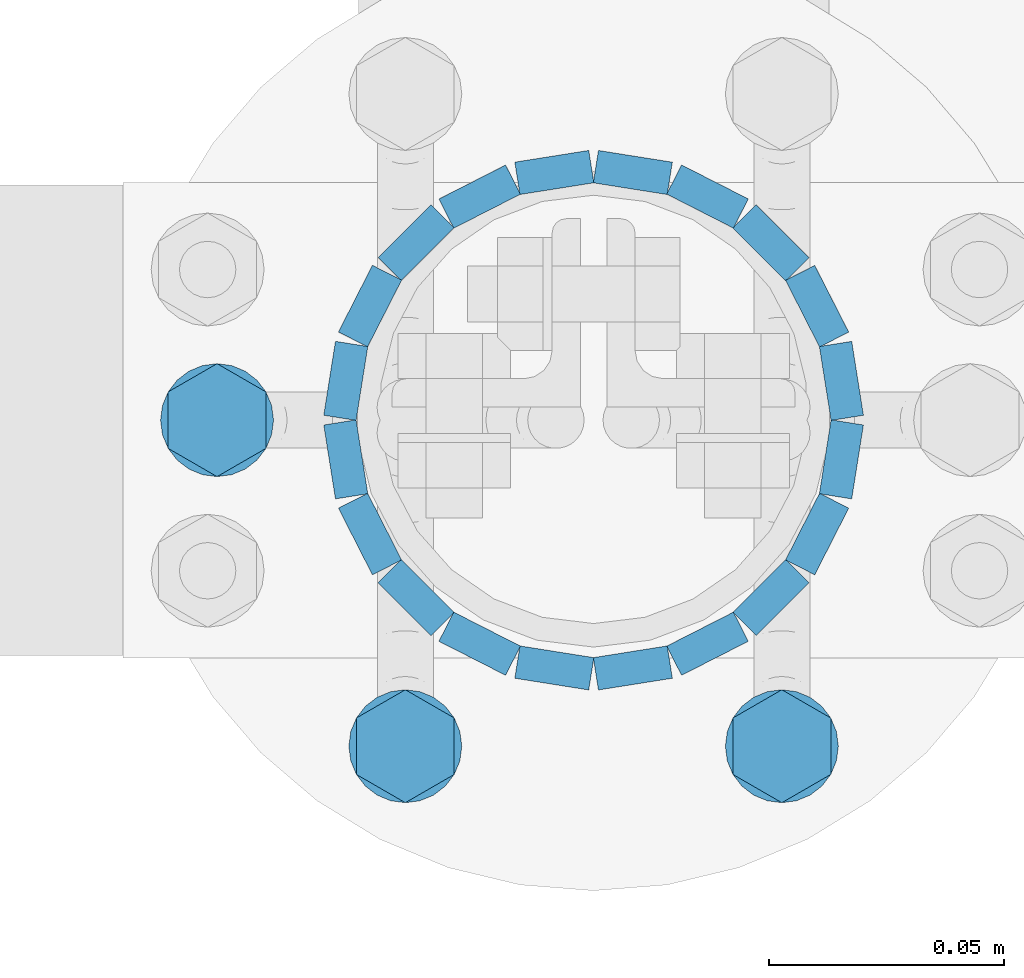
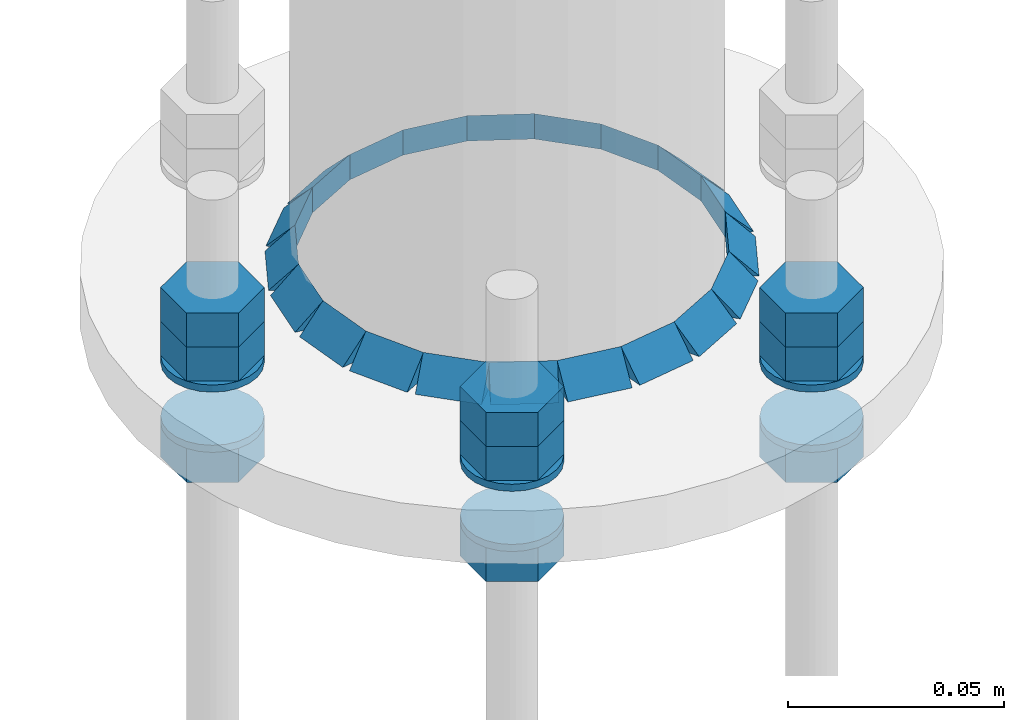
# One storey, part 40 of 84: 40 fasteners, 15 mechanical fasteners.
"""IFC4 building model written with IfcOpenShell, lengths in metres."""

import ifcopenshell
import ifcopenshell.guid

model = None  # the IFC model being written
_history = None  # IfcOwnerHistory: only IFC2X3 demands one
_inside = {}  # id of a spatial element -> (the spatial element, [elements in it])
_under = {}  # id of a project, library or spatial element -> (it, [spatial elements below it])
_declared = {}  # id of a project -> (the project, [libraries it declares])
_typed = {}  # id of a type object -> (the type object, [elements of that type])
_made_of = {}  # id of a material, layer set ... -> (it, [elements and type objects made of it])


def new_model(schema):
    """Start an empty IFC model of exactly this schema.

    Asked for "IFC4X3", IfcOpenShell would pick the latest addendum, in which some entities
    have other attributes; the version numbers below select the first issue.
    IFC2X3 requires an IfcOwnerHistory on every rooted entity: one is made here for all.
    """
    global model, _history
    if schema == "IFC4X3":
        model = ifcopenshell.file(schema_version=(4, 3, 0, 0))
    else:
        model = ifcopenshell.file(schema=schema)
    _inside.clear()
    _under.clear()
    _declared.clear()
    _typed.clear()
    _made_of.clear()
    _history = None
    if model.schema == "IFC2X3":
        org = make("IfcOrganization", Name="unknown")
        user = make(
            "IfcPersonAndOrganization",
            ThePerson=make("IfcPerson", FamilyName="unknown"),
            TheOrganization=org,
        )
        app = make(
            "IfcApplication",
            ApplicationDeveloper=org,
            Version="unknown",
            ApplicationFullName="unknown",
            ApplicationIdentifier="unknown",
        )
        _history = make(
            "IfcOwnerHistory",
            OwningUser=user,
            OwningApplication=app,
            ChangeAction="ADDED",
            CreationDate=0,
        )
    return model


def make(cls, **values):
    """One entity of the class cls with the attributes given. An attribute that is None is left unset."""
    return model.create_entity(
        cls, **{name: value for name, value in values.items() if value is not None}
    )


def rooted(cls, **values):
    """An entity with a GlobalId (a new one), such as an element, a storey or a relation."""
    return make(cls, GlobalId=ifcopenshell.guid.new(), OwnerHistory=_history, **values)


def si_unit(unit_type, name, prefix=None):
    """IfcSIUnit, for example si_unit("LENGTHUNIT", "METRE", prefix="MILLI")."""
    return make("IfcSIUnit", UnitType=unit_type, Prefix=prefix, Name=name)


def assignment(units):
    """IfcUnitAssignment: the units of a project."""
    return None if units is None else make("IfcUnitAssignment", Units=units)


def point(xyz):
    """IfcCartesianPoint."""
    return None if xyz is None else make("IfcCartesianPoint", Coordinates=xyz)


def direction(xyz):
    """IfcDirection."""
    return None if xyz is None else make("IfcDirection", DirectionRatios=xyz)


def frame(location, z_axis=None, x_axis=None):
    """IfcAxis2Placement3D, a coordinate frame: its origin and axes. An axis left out is left unset."""
    return make(
        "IfcAxis2Placement3D",
        Location=point(location),
        Axis=direction(z_axis),
        RefDirection=direction(x_axis),
    )


def origin_with_axes():
    """The frame at (0, 0, 0) with the z axis (0, 0, 1) and the x axis (1, 0, 0) written out."""
    return frame((0.0, 0.0, 0.0), z_axis=(0.0, 0.0, 1.0), x_axis=(1.0, 0.0, 0.0))


def place(relative_to, where):
    """IfcLocalPlacement: puts the frame where relative to a parent placement (None: the world)."""
    return make(
        "IfcLocalPlacement", PlacementRelTo=relative_to, RelativePlacement=where
    )


def context(
    kind, dimensions, precision=None, world=None, true_north=None, identifier=None
):
    """IfcGeometricRepresentationContext, for example the 3D "Model" context."""
    return make(
        "IfcGeometricRepresentationContext",
        ContextIdentifier=identifier,
        ContextType=kind,
        CoordinateSpaceDimension=dimensions,
        Precision=precision,
        WorldCoordinateSystem=world,
        TrueNorth=true_north,
    )


def project(units=None, contexts=None):
    """IfcProject with its units and contexts."""
    return rooted(
        "IfcProject",
        Name="project",
        RepresentationContexts=contexts,
        UnitsInContext=assignment(units),
    )


def spatial(cls, under=None, at=None, **own):
    """A site, building, storey or space (cls), placed at a placement, below another one or the project."""
    s = rooted(cls, ObjectPlacement=at, **own)
    if under is not None:
        _under.setdefault(under.id(), (under, []))[1].append(s)
    return s


def polyline(points):
    """IfcPolyline through the points."""
    return make("IfcPolyline", Points=[point(p) for p in points])


def outline(outer, holes=None, kind="AREA"):
    """IfcArbitraryClosedProfileDef: a profile drawn as a closed curve; with holes, ...WithVoids."""
    if holes is None:
        return make("IfcArbitraryClosedProfileDef", ProfileType=kind, OuterCurve=outer)
    return make(
        "IfcArbitraryProfileDefWithVoids",
        ProfileType=kind,
        OuterCurve=outer,
        InnerCurves=holes,
    )


def extrude(swept, where, along, depth):
    """IfcExtrudedAreaSolid: the profile swept, set in the frame where, extruded along a direction by depth."""
    return make(
        "IfcExtrudedAreaSolid",
        SweptArea=swept,
        Position=where,
        ExtrudedDirection=direction(along),
        Depth=depth,
    )


def shape(context_of_items, identifier, shape_type, items):
    """IfcShapeRepresentation: the items that make up one representation, for example the "Body"."""
    return make(
        "IfcShapeRepresentation",
        ContextOfItems=context_of_items,
        RepresentationIdentifier=identifier,
        RepresentationType=shape_type,
        Items=items,
    )


def made_of(thing, what):
    """Note that an element or type object is made of a material, layer set ...; save() writes the relation."""
    if what is not None:
        _made_of.setdefault(what.id(), (what, []))[1].append(thing)
    return thing


def type_object(cls, material=None, **own):
    """A type object (cls), such as IfcWallType, which elements share."""
    return made_of(rooted(cls, **own), material)


def element(
    cls,
    number,
    at=None,
    inside=None,
    cuts=None,
    type_object=None,
    material=None,
    context=None,
    identifier="Body",
    shape_type=None,
    held_by="IfcProductDefinitionShape",
    body=None,
    shapes=None,
    **own,
):
    """One element of the class cls, such as IfcWall. Its Tag is "e" and its number.

    at: its placement. inside: the storey or other place that contains it. cuts: it is an
    opening in that element (IfcRelVoidsElement). A single representation is given by context,
    identifier, shape_type and body (its items); several are given by shapes. held_by: the class
    of the entity that holds the representations. save() writes the other relations.
    """
    e = rooted(cls, Tag="e%d" % number, ObjectPlacement=at, **own)
    if body is not None:
        shapes = [shape(context, identifier, shape_type, body)]
    if shapes is not None:
        e.Representation = make(held_by, Representations=shapes)
    if inside is not None:
        _inside.setdefault(inside.id(), (inside, []))[1].append(e)
    if cuts is not None:
        rooted(
            "IfcRelVoidsElement", RelatingBuildingElement=cuts, RelatedOpeningElement=e
        )
    if type_object is not None:
        _typed.setdefault(type_object.id(), (type_object, []))[1].append(e)
    return made_of(e, material)


def aggregate(whole, parts):
    """IfcRelAggregates: a whole, such as a stair, and the parts it consists of."""
    return rooted("IfcRelAggregates", RelatingObject=whole, RelatedObjects=parts)


def save(model, path):
    """Write the relations noted so far, then the file.

    IfcRelAggregates (storeys below a building ...), IfcRelContainedInSpatialStructure (elements
    in a storey), IfcRelDefinesByType, IfcRelAssociatesMaterial and IfcRelDeclares: one each for
    every whole, place, type object, material and project.
    """
    for whole, parts in _under.values():
        aggregate(whole, parts)
    for where, things in _inside.values():
        rooted(
            "IfcRelContainedInSpatialStructure",
            RelatedElements=things,
            RelatingStructure=where,
        )
    for kind, things in _typed.values():
        rooted("IfcRelDefinesByType", RelatedObjects=things, RelatingType=kind)
    for what, things in _made_of.values():
        rooted("IfcRelAssociatesMaterial", RelatedObjects=things, RelatingMaterial=what)
    for by, libraries in _declared.values():
        rooted("IfcRelDeclares", RelatingContext=by, RelatedDefinitions=libraries)
    model.write(path)


model = new_model("IFC4")

# Units and contexts
model_context = context("Model", 3, precision=1e-05, world=origin_with_axes())
ifc_project = project(units=[si_unit("LENGTHUNIT", "METRE"), si_unit("AREAUNIT", "SQUARE_METRE"), si_unit("VOLUMEUNIT", "CUBIC_METRE"), si_unit("MASSUNIT", "GRAM", prefix="KILO"), si_unit("TIMEUNIT", "SECOND"), si_unit("PLANEANGLEUNIT", "RADIAN"), si_unit("SOLIDANGLEUNIT", "STERADIAN"), si_unit("THERMODYNAMICTEMPERATUREUNIT", "DEGREE_CELSIUS")], contexts=[model_context])

# Site, building, storey
placement_1 = place(None, origin_with_axes())
site = spatial("IfcSite", under=ifc_project, at=placement_1, Name="Italia", CompositionType="ELEMENT")
building = spatial("IfcBuilding", under=site, at=placement_1, Name="Tettoia", CompositionType="ELEMENT")
storey_placement = place(None, frame((0.0, 0.0, 4.199999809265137), z_axis=(0.0, 0.0, 1.0), x_axis=(1.0, 0.0, 0.0)))
storey = spatial("IfcBuildingStorey", under=building, at=storey_placement, Name="Storey 1", CompositionType="ELEMENT", Elevation=4.199999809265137)

# Fasteners
fastener_type_1 = type_object("IfcFastenerType", Name="Collegamento -007_0107", PredefinedType="WELD")
placement_2 = place(placement_1, origin_with_axes())
fastener_1_placement = place(placement_2, origin_with_axes())
element("IfcFastener", 1, at=fastener_1_placement, inside=storey, type_object=fastener_type_1, Name="Collegamento -007_0107", context=model_context, shape_type="SweptSolid", body=[
    extrude(outline(polyline([(0.0, 0.0), (0.00695801, 0.00717354), (0.00695801, 0.0), (0.0, 0.0)])), frame((0.116736, 10.0248, 4.01495), z_axis=(-0.98768013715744, 0.156486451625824, 0.0), x_axis=(-0.156486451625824, -0.98768013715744, 0.0)), (0.0, 0.0, 1.0), 0.0159),
])
fastener_type_2 = type_object("IfcFastenerType", Name="Collegamento -007_0107", PredefinedType="WELD")
fastener_2_placement = place(placement_2, origin_with_axes())
element("IfcFastener", 2, at=fastener_2_placement, inside=storey, type_object=fastener_type_2, Name="Collegamento -007_0107", context=model_context, shape_type="SweptSolid", body=[
    extrude(outline(polyline([(0.0, 0.0), (0.00695896, 0.00717354), (0.00695896, 0.0), (0.0, 0.0)])), frame((0.132864, 10.017, 4.01495), z_axis=(-0.8910071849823, 0.453989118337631, 0.0), x_axis=(-0.453989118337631, -0.8910071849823, 0.0)), (0.0, 0.0, 1.0), 0.0158999),
])
fastener_type_3 = type_object("IfcFastenerType", Name="Collegamento -007_0107", PredefinedType="WELD")
fastener_3_placement = place(placement_2, origin_with_axes())
element("IfcFastener", 3, at=fastener_3_placement, inside=storey, type_object=fastener_type_3, Name="Collegamento -007_0107", context=model_context, shape_type="SweptSolid", body=[
    extrude(outline(polyline([(0.0, 0.0), (0.00695848, 0.00717354), (0.00695848, 0.0), (0.0, 0.0)])), frame((0.145776, 10.0045, 4.01495), z_axis=(-0.70710813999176, 0.707105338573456, 0.0), x_axis=(-0.707105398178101, -0.707108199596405, 0.0)), (0.0, 0.0, 1.0), 0.0158998),
])
fastener_type_4 = type_object("IfcFastenerType", Name="Collegamento -007_0107", PredefinedType="WELD")
fastener_4_placement = place(placement_2, origin_with_axes())
element("IfcFastener", 4, at=fastener_4_placement, inside=storey, type_object=fastener_type_4, Name="Collegamento -007_0107", context=model_context, shape_type="SweptSolid", body=[
    extrude(outline(polyline([(0.0, 0.0), (0.00695848, 0.00717354), (0.00695848, 0.0), (0.0, 0.0)])), frame((0.154206, 9.9887, 4.01495), z_axis=(-0.453992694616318, 0.891005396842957, 0.0), x_axis=(-0.891005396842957, -0.453992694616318, 0.0)), (0.0, 0.0, 1.0), 0.0158998),
])
fastener_type_5 = type_object("IfcFastenerType", Name="Collegamento -007_0107", PredefinedType="WELD")
fastener_5_placement = place(placement_2, origin_with_axes())
element("IfcFastener", 5, at=fastener_5_placement, inside=storey, type_object=fastener_type_5, Name="Collegamento -007_0107", context=model_context, shape_type="SweptSolid", body=[
    extrude(outline(polyline([(0.0, 0.0), (0.00695813, 0.00717354), (0.00695813, 0.0), (0.0, 0.0)])), frame((0.157331, 9.97103, 4.01495), z_axis=(-0.156434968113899, 0.987688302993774, 0.0), x_axis=(-0.98768824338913, -0.156434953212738, 0.0)), (0.0, 0.0, 1.0), 0.0158999),
])
fastener_type_6 = type_object("IfcFastenerType", Name="Collegamento -007_0107", PredefinedType="WELD")
fastener_6_placement = place(placement_2, origin_with_axes())
element("IfcFastener", 6, at=fastener_6_placement, inside=storey, type_object=fastener_type_6, Name="Collegamento -007_0107", context=model_context, shape_type="SweptSolid", body=[
    extrude(outline(polyline([(0.0, 0.0), (0.00695813, 0.00717354), (0.00695813, 0.0), (0.0, 0.0)])), frame((0.154844, 9.95327, 4.01495), z_axis=(0.156434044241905, 0.987688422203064, 0.0), x_axis=(-0.987688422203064, 0.156434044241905, 0.0)), (0.0, 0.0, 1.0), 0.0158999),
])
fastener_type_7 = type_object("IfcFastenerType", Name="Collegamento -007_0107", PredefinedType="WELD")
fastener_7_placement = place(placement_2, origin_with_axes())
element("IfcFastener", 7, at=fastener_7_placement, inside=storey, type_object=fastener_type_7, Name="Collegamento -007_0107", context=model_context, shape_type="SweptSolid", body=[
    extrude(outline(polyline([(0.0, 0.0), (0.00695848, 0.00717354), (0.00695848, 0.0), (0.0, 0.0)])), frame((0.146988, 9.93714, 4.01495), z_axis=(0.45399197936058, 0.89100581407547, 0.0), x_axis=(-0.891005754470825, 0.453991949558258, 0.0)), (0.0, 0.0, 1.0), 0.0158998),
])
fastener_type_8 = type_object("IfcFastenerType", Name="Collegamento -007_0107", PredefinedType="WELD")
fastener_8_placement = place(placement_2, origin_with_axes())
element("IfcFastener", 8, at=fastener_8_placement, inside=storey, type_object=fastener_type_8, Name="Collegamento -007_0107", context=model_context, shape_type="SweptSolid", body=[
    extrude(outline(polyline([(0.0, 0.0), (0.00695801, 0.00717354), (0.00695801, 0.0), (0.0, 0.0)])), frame((0.134533, 9.92422, 4.01495), z_axis=(0.707108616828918, 0.707104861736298, 0.0), x_axis=(-0.707104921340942, 0.707108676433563, 0.0)), (0.0, 0.0, 1.0), 0.0158999),
])
fastener_type_9 = type_object("IfcFastenerType", Name="Collegamento -007_0107", PredefinedType="WELD")
fastener_9_placement = place(placement_2, origin_with_axes())
element("IfcFastener", 9, at=fastener_9_placement, inside=storey, type_object=fastener_type_9, Name="Collegamento -007_0107", context=model_context, shape_type="SweptSolid", body=[
    extrude(outline(polyline([(0.0, 0.0), (0.00695801, 0.00717354), (0.00695801, 0.0), (0.0, 0.0)])), frame((0.118697, 9.91579, 4.01495), z_axis=(0.891007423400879, 0.453988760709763, 0.0), x_axis=(-0.453988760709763, 0.891007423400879, 0.0)), (0.0, 0.0, 1.0), 0.0158999),
])
fastener_type_10 = type_object("IfcFastenerType", Name="Collegamento -007_0107", PredefinedType="WELD")
fastener_10_placement = place(placement_2, origin_with_axes())
element("IfcFastener", 10, at=fastener_10_placement, inside=storey, type_object=fastener_type_10, Name="Collegamento -007_0107", context=model_context, shape_type="SweptSolid", body=[
    extrude(outline(polyline([(0.0, 0.0), (0.00695896, 0.00717354), (0.00695896, 0.0), (0.0, 0.0)])), frame((0.101031, 9.91267, 4.01495), z_axis=(0.987680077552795, 0.156486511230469, 0.0), x_axis=(-0.156486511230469, 0.987680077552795, 0.0)), (0.0, 0.0, 1.0), 0.0159),
])
fastener_type_11 = type_object("IfcFastenerType", Name="Collegamento -007_0107", PredefinedType="WELD")
fastener_11_placement = place(placement_2, origin_with_axes())
element("IfcFastener", 11, at=fastener_11_placement, inside=storey, type_object=fastener_type_11, Name="Collegamento -007_0107", context=model_context, shape_type="SweptSolid", body=[
    extrude(outline(polyline([(0.0, 0.0), (0.00695705, 0.00717354), (0.00695705, 0.0), (0.0, 0.0)])), frame((0.0832645, 9.91516, 4.01495), z_axis=(0.987680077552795, -0.156486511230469, 0.0), x_axis=(0.156486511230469, 0.987680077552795, 0.0)), (0.0, 0.0, 1.0), 0.0159),
])
fastener_type_12 = type_object("IfcFastenerType", Name="Collegamento -007_0107", PredefinedType="WELD")
fastener_12_placement = place(placement_2, origin_with_axes())
element("IfcFastener", 12, at=fastener_12_placement, inside=storey, type_object=fastener_type_12, Name="Collegamento -007_0107", context=model_context, shape_type="SweptSolid", body=[
    extrude(outline(polyline([(0.0, 0.0), (0.00695801, 0.00717354), (0.00695801, 0.0), (0.0, 0.0)])), frame((0.0671362, 9.92301, 4.01495), z_axis=(0.891007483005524, -0.453988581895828, 0.0), x_axis=(0.453988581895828, 0.891007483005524, 0.0)), (0.0, 0.0, 1.0), 0.0158999),
])
fastener_type_13 = type_object("IfcFastenerType", Name="Collegamento -007_0107", PredefinedType="WELD")
fastener_13_placement = place(placement_2, origin_with_axes())
element("IfcFastener", 13, at=fastener_13_placement, inside=storey, type_object=fastener_type_13, Name="Collegamento -007_0107", context=model_context, shape_type="SweptSolid", body=[
    extrude(outline(polyline([(0.0, 0.0), (0.00695801, 0.00717354), (0.00695801, 0.0), (0.0, 0.0)])), frame((0.0542245, 9.93547, 4.01495), z_axis=(0.707108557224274, -0.707105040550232, 0.0), x_axis=(0.707105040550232, 0.707108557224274, 0.0)), (0.0, 0.0, 1.0), 0.0158999),
])
fastener_type_14 = type_object("IfcFastenerType", Name="Collegamento -007_0107", PredefinedType="WELD")
fastener_14_placement = place(placement_2, origin_with_axes())
element("IfcFastener", 14, at=fastener_14_placement, inside=storey, type_object=fastener_type_14, Name="Collegamento -007_0107", context=model_context, shape_type="SweptSolid", body=[
    extrude(outline(polyline([(0.0, 0.0), (0.00695896, 0.00717354), (0.00695896, 0.0), (0.0, 0.0)])), frame((0.0457937, 9.9513, 4.01495), z_axis=(0.45399197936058, -0.89100581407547, 0.0), x_axis=(0.891005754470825, 0.453991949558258, 0.0)), (0.0, 0.0, 1.0), 0.0158998),
])
fastener_type_15 = type_object("IfcFastenerType", Name="Collegamento -007_0107", PredefinedType="WELD")
fastener_15_placement = place(placement_2, origin_with_axes())
element("IfcFastener", 15, at=fastener_15_placement, inside=storey, type_object=fastener_type_15, Name="Collegamento -007_0107", context=model_context, shape_type="SweptSolid", body=[
    extrude(outline(polyline([(0.0, 0.0), (0.00695813, 0.00717354), (0.00695813, 0.0), (0.0, 0.0)])), frame((0.0426691, 9.96897, 4.01495), z_axis=(0.156434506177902, -0.987688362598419, 0.0), x_axis=(0.987688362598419, 0.156434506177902, 0.0)), (0.0, 0.0, 1.0), 0.0158999),
])
fastener_type_16 = type_object("IfcFastenerType", Name="Collegamento -007_0107", PredefinedType="WELD")
fastener_16_placement = place(placement_2, origin_with_axes())
element("IfcFastener", 16, at=fastener_16_placement, inside=storey, type_object=fastener_type_16, Name="Collegamento -007_0107", context=model_context, shape_type="SweptSolid", body=[
    extrude(outline(polyline([(0.0, 0.0), (0.00695813, 0.00717354), (0.00695813, 0.0), (0.0, 0.0)])), frame((0.0451564, 9.98674, 4.01495), z_axis=(-0.156434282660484, -0.987688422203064, 0.0), x_axis=(0.987688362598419, -0.156434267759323, 0.0)), (0.0, 0.0, 1.0), 0.0158999),
])
fastener_type_17 = type_object("IfcFastenerType", Name="Collegamento -007_0107", PredefinedType="WELD")
fastener_17_placement = place(placement_2, origin_with_axes())
element("IfcFastener", 17, at=fastener_17_placement, inside=storey, type_object=fastener_type_17, Name="Collegamento -007_0107", context=model_context, shape_type="SweptSolid", body=[
    extrude(outline(polyline([(0.0, 0.0), (0.00695801, 0.00717354), (0.00695801, 0.0), (0.0, 0.0)])), frame((0.0530121, 10.0029, 4.01495), z_axis=(-0.453992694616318, -0.891005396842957, 0.0), x_axis=(0.891005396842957, -0.453992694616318, 0.0)), (0.0, 0.0, 1.0), 0.0158998),
])
fastener_type_18 = type_object("IfcFastenerType", Name="Collegamento -007_0107", PredefinedType="WELD")
fastener_18_placement = place(placement_2, origin_with_axes())
element("IfcFastener", 18, at=fastener_18_placement, inside=storey, type_object=fastener_type_18, Name="Collegamento -007_0107", context=model_context, shape_type="SweptSolid", body=[
    extrude(outline(polyline([(0.0, 0.0), (0.00695801, 0.00717354), (0.00695801, 0.0), (0.0, 0.0)])), frame((0.0654674, 10.0158, 4.01495), z_axis=(-0.707108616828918, -0.707104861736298, 0.0), x_axis=(0.707104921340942, -0.707108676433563, 0.0)), (0.0, 0.0, 1.0), 0.0158999),
])
fastener_type_19 = type_object("IfcFastenerType", Name="Collegamento -007_0107", PredefinedType="WELD")
fastener_19_placement = place(placement_2, origin_with_axes())
element("IfcFastener", 19, at=fastener_19_placement, inside=storey, type_object=fastener_type_19, Name="Collegamento -007_0107", context=model_context, shape_type="SweptSolid", body=[
    extrude(outline(polyline([(0.0, 0.0), (0.00695801, 0.00717354), (0.00695801, 0.0), (0.0, 0.0)])), frame((0.0813031, 10.0242, 4.01495), z_axis=(-0.891007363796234, -0.453988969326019, 0.0), x_axis=(0.453988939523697, -0.891007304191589, 0.0)), (0.0, 0.0, 1.0), 0.0158999),
])
fastener_type_20 = type_object("IfcFastenerType", Name="Collegamento -007_0107", PredefinedType="WELD")
fastener_20_placement = place(placement_2, origin_with_axes())
element("IfcFastener", 20, at=fastener_20_placement, inside=storey, type_object=fastener_type_20, Name="Collegamento -007_0107", context=model_context, shape_type="SweptSolid", body=[
    extrude(outline(polyline([(0.0, 0.0), (0.00695801, 0.00717354), (0.00695801, 0.0), (0.0, 0.0)])), frame((0.0989686, 10.0273, 4.01495), z_axis=(-0.98768013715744, -0.156486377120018, 0.0), x_axis=(0.156486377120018, -0.98768013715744, 0.0)), (0.0, 0.0, 1.0), 0.0159),
])
fastener_type_21 = type_object("IfcFastenerType", Name="Collegamento -007_0107", PredefinedType="WELD")
fastener_21_placement = place(placement_2, origin_with_axes())
element("IfcFastener", 21, at=fastener_21_placement, inside=storey, type_object=fastener_type_21, Name="Collegamento -007_0107", context=model_context, shape_type="SweptSolid", body=[
    extrude(outline(polyline([(0.0, 0.0), (0.00695801, 0.00717354), (0.00695801, 0.0), (0.0, 0.0)])), frame((0.116736, 10.0248, 4.01495), z_axis=(-0.98768013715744, 0.156486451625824, 0.0), x_axis=(-0.156486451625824, -0.98768013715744, 0.0)), (0.0, 0.0, 1.0), 0.0159),
])
fastener_type_22 = type_object("IfcFastenerType", Name="Collegamento -007_0107", PredefinedType="WELD")
fastener_22_placement = place(placement_2, origin_with_axes())
element("IfcFastener", 22, at=fastener_22_placement, inside=storey, type_object=fastener_type_22, Name="Collegamento -007_0107", context=model_context, shape_type="SweptSolid", body=[
    extrude(outline(polyline([(0.0, 0.0), (0.00695896, 0.00717354), (0.00695896, 0.0), (0.0, 0.0)])), frame((0.132864, 10.017, 4.01495), z_axis=(-0.8910071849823, 0.453989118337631, 0.0), x_axis=(-0.453989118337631, -0.8910071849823, 0.0)), (0.0, 0.0, 1.0), 0.0158999),
])
fastener_type_23 = type_object("IfcFastenerType", Name="Collegamento -007_0107", PredefinedType="WELD")
fastener_23_placement = place(placement_2, origin_with_axes())
element("IfcFastener", 23, at=fastener_23_placement, inside=storey, type_object=fastener_type_23, Name="Collegamento -007_0107", context=model_context, shape_type="SweptSolid", body=[
    extrude(outline(polyline([(0.0, 0.0), (0.00695848, 0.00717354), (0.00695848, 0.0), (0.0, 0.0)])), frame((0.145776, 10.0045, 4.01495), z_axis=(-0.70710813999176, 0.707105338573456, 0.0), x_axis=(-0.707105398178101, -0.707108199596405, 0.0)), (0.0, 0.0, 1.0), 0.0158998),
])
fastener_type_24 = type_object("IfcFastenerType", Name="Collegamento -007_0107", PredefinedType="WELD")
fastener_24_placement = place(placement_2, origin_with_axes())
element("IfcFastener", 24, at=fastener_24_placement, inside=storey, type_object=fastener_type_24, Name="Collegamento -007_0107", context=model_context, shape_type="SweptSolid", body=[
    extrude(outline(polyline([(0.0, 0.0), (0.00695848, 0.00717354), (0.00695848, 0.0), (0.0, 0.0)])), frame((0.154206, 9.9887, 4.01495), z_axis=(-0.453992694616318, 0.891005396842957, 0.0), x_axis=(-0.891005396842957, -0.453992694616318, 0.0)), (0.0, 0.0, 1.0), 0.0158998),
])
fastener_type_25 = type_object("IfcFastenerType", Name="Collegamento -007_0107", PredefinedType="WELD")
fastener_25_placement = place(placement_2, origin_with_axes())
element("IfcFastener", 25, at=fastener_25_placement, inside=storey, type_object=fastener_type_25, Name="Collegamento -007_0107", context=model_context, shape_type="SweptSolid", body=[
    extrude(outline(polyline([(0.0, 0.0), (0.00695813, 0.00717354), (0.00695813, 0.0), (0.0, 0.0)])), frame((0.157331, 9.97103, 4.01495), z_axis=(-0.156434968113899, 0.987688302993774, 0.0), x_axis=(-0.98768824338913, -0.156434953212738, 0.0)), (0.0, 0.0, 1.0), 0.0158999),
])
fastener_type_26 = type_object("IfcFastenerType", Name="Collegamento -007_0107", PredefinedType="WELD")
fastener_26_placement = place(placement_2, origin_with_axes())
element("IfcFastener", 26, at=fastener_26_placement, inside=storey, type_object=fastener_type_26, Name="Collegamento -007_0107", context=model_context, shape_type="SweptSolid", body=[
    extrude(outline(polyline([(0.0, 0.0), (0.00695813, 0.00717354), (0.00695813, 0.0), (0.0, 0.0)])), frame((0.154844, 9.95327, 4.01495), z_axis=(0.156434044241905, 0.987688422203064, 0.0), x_axis=(-0.987688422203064, 0.156434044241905, 0.0)), (0.0, 0.0, 1.0), 0.0158999),
])
fastener_type_27 = type_object("IfcFastenerType", Name="Collegamento -007_0107", PredefinedType="WELD")
fastener_27_placement = place(placement_2, origin_with_axes())
element("IfcFastener", 27, at=fastener_27_placement, inside=storey, type_object=fastener_type_27, Name="Collegamento -007_0107", context=model_context, shape_type="SweptSolid", body=[
    extrude(outline(polyline([(0.0, 0.0), (0.00695848, 0.00717354), (0.00695848, 0.0), (0.0, 0.0)])), frame((0.146988, 9.93714, 4.01495), z_axis=(0.45399197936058, 0.89100581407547, 0.0), x_axis=(-0.891005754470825, 0.453991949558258, 0.0)), (0.0, 0.0, 1.0), 0.0158998),
])
fastener_type_28 = type_object("IfcFastenerType", Name="Collegamento -007_0107", PredefinedType="WELD")
fastener_28_placement = place(placement_2, origin_with_axes())
element("IfcFastener", 28, at=fastener_28_placement, inside=storey, type_object=fastener_type_28, Name="Collegamento -007_0107", context=model_context, shape_type="SweptSolid", body=[
    extrude(outline(polyline([(0.0, 0.0), (0.00695801, 0.00717354), (0.00695801, 0.0), (0.0, 0.0)])), frame((0.134533, 9.92422, 4.01495), z_axis=(0.707108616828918, 0.707104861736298, 0.0), x_axis=(-0.707104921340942, 0.707108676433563, 0.0)), (0.0, 0.0, 1.0), 0.0158999),
])
fastener_type_29 = type_object("IfcFastenerType", Name="Collegamento -007_0107", PredefinedType="WELD")
fastener_29_placement = place(placement_2, origin_with_axes())
element("IfcFastener", 29, at=fastener_29_placement, inside=storey, type_object=fastener_type_29, Name="Collegamento -007_0107", context=model_context, shape_type="SweptSolid", body=[
    extrude(outline(polyline([(0.0, 0.0), (0.00695801, 0.00717354), (0.00695801, 0.0), (0.0, 0.0)])), frame((0.118697, 9.91579, 4.01495), z_axis=(0.891007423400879, 0.453988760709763, 0.0), x_axis=(-0.453988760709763, 0.891007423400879, 0.0)), (0.0, 0.0, 1.0), 0.0158999),
])
fastener_type_30 = type_object("IfcFastenerType", Name="Collegamento -007_0107", PredefinedType="WELD")
fastener_30_placement = place(placement_2, origin_with_axes())
element("IfcFastener", 30, at=fastener_30_placement, inside=storey, type_object=fastener_type_30, Name="Collegamento -007_0107", context=model_context, shape_type="SweptSolid", body=[
    extrude(outline(polyline([(0.0, 0.0), (0.00695896, 0.00717354), (0.00695896, 0.0), (0.0, 0.0)])), frame((0.101031, 9.91267, 4.01495), z_axis=(0.987680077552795, 0.156486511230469, 0.0), x_axis=(-0.156486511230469, 0.987680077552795, 0.0)), (0.0, 0.0, 1.0), 0.0159),
])
fastener_type_31 = type_object("IfcFastenerType", Name="Collegamento -007_0107", PredefinedType="WELD")
fastener_31_placement = place(placement_2, origin_with_axes())
element("IfcFastener", 31, at=fastener_31_placement, inside=storey, type_object=fastener_type_31, Name="Collegamento -007_0107", context=model_context, shape_type="SweptSolid", body=[
    extrude(outline(polyline([(0.0, 0.0), (0.00695705, 0.00717354), (0.00695705, 0.0), (0.0, 0.0)])), frame((0.0832645, 9.91516, 4.01495), z_axis=(0.987680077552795, -0.156486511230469, 0.0), x_axis=(0.156486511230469, 0.987680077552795, 0.0)), (0.0, 0.0, 1.0), 0.0159),
])
fastener_type_32 = type_object("IfcFastenerType", Name="Collegamento -007_0107", PredefinedType="WELD")
fastener_32_placement = place(placement_2, origin_with_axes())
element("IfcFastener", 32, at=fastener_32_placement, inside=storey, type_object=fastener_type_32, Name="Collegamento -007_0107", context=model_context, shape_type="SweptSolid", body=[
    extrude(outline(polyline([(0.0, 0.0), (0.00695801, 0.00717354), (0.00695801, 0.0), (0.0, 0.0)])), frame((0.0671362, 9.92301, 4.01495), z_axis=(0.891007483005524, -0.453988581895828, 0.0), x_axis=(0.453988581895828, 0.891007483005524, 0.0)), (0.0, 0.0, 1.0), 0.0158999),
])
fastener_type_33 = type_object("IfcFastenerType", Name="Collegamento -007_0107", PredefinedType="WELD")
fastener_33_placement = place(placement_2, origin_with_axes())
element("IfcFastener", 33, at=fastener_33_placement, inside=storey, type_object=fastener_type_33, Name="Collegamento -007_0107", context=model_context, shape_type="SweptSolid", body=[
    extrude(outline(polyline([(0.0, 0.0), (0.00695801, 0.00717354), (0.00695801, 0.0), (0.0, 0.0)])), frame((0.0542245, 9.93547, 4.01495), z_axis=(0.707108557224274, -0.707105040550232, 0.0), x_axis=(0.707105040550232, 0.707108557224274, 0.0)), (0.0, 0.0, 1.0), 0.0158999),
])
fastener_type_34 = type_object("IfcFastenerType", Name="Collegamento -007_0107", PredefinedType="WELD")
fastener_34_placement = place(placement_2, origin_with_axes())
element("IfcFastener", 34, at=fastener_34_placement, inside=storey, type_object=fastener_type_34, Name="Collegamento -007_0107", context=model_context, shape_type="SweptSolid", body=[
    extrude(outline(polyline([(0.0, 0.0), (0.00695896, 0.00717354), (0.00695896, 0.0), (0.0, 0.0)])), frame((0.0457937, 9.9513, 4.01495), z_axis=(0.45399197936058, -0.89100581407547, 0.0), x_axis=(0.891005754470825, 0.453991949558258, 0.0)), (0.0, 0.0, 1.0), 0.0158998),
])
fastener_type_35 = type_object("IfcFastenerType", Name="Collegamento -007_0107", PredefinedType="WELD")
fastener_35_placement = place(placement_2, origin_with_axes())
element("IfcFastener", 35, at=fastener_35_placement, inside=storey, type_object=fastener_type_35, Name="Collegamento -007_0107", context=model_context, shape_type="SweptSolid", body=[
    extrude(outline(polyline([(0.0, 0.0), (0.00695813, 0.00717354), (0.00695813, 0.0), (0.0, 0.0)])), frame((0.0426691, 9.96897, 4.01495), z_axis=(0.156434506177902, -0.987688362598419, 0.0), x_axis=(0.987688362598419, 0.156434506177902, 0.0)), (0.0, 0.0, 1.0), 0.0158999),
])
fastener_type_36 = type_object("IfcFastenerType", Name="Collegamento -007_0107", PredefinedType="WELD")
fastener_36_placement = place(placement_2, origin_with_axes())
element("IfcFastener", 36, at=fastener_36_placement, inside=storey, type_object=fastener_type_36, Name="Collegamento -007_0107", context=model_context, shape_type="SweptSolid", body=[
    extrude(outline(polyline([(0.0, 0.0), (0.00695813, 0.00717354), (0.00695813, 0.0), (0.0, 0.0)])), frame((0.0451564, 9.98674, 4.01495), z_axis=(-0.156434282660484, -0.987688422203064, 0.0), x_axis=(0.987688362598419, -0.156434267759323, 0.0)), (0.0, 0.0, 1.0), 0.0158999),
])
fastener_type_37 = type_object("IfcFastenerType", Name="Collegamento -007_0107", PredefinedType="WELD")
fastener_37_placement = place(placement_2, origin_with_axes())
element("IfcFastener", 37, at=fastener_37_placement, inside=storey, type_object=fastener_type_37, Name="Collegamento -007_0107", context=model_context, shape_type="SweptSolid", body=[
    extrude(outline(polyline([(0.0, 0.0), (0.00695801, 0.00717354), (0.00695801, 0.0), (0.0, 0.0)])), frame((0.0530121, 10.0029, 4.01495), z_axis=(-0.453992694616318, -0.891005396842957, 0.0), x_axis=(0.891005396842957, -0.453992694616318, 0.0)), (0.0, 0.0, 1.0), 0.0158998),
])
fastener_type_38 = type_object("IfcFastenerType", Name="Collegamento -007_0107", PredefinedType="WELD")
fastener_38_placement = place(placement_2, origin_with_axes())
element("IfcFastener", 38, at=fastener_38_placement, inside=storey, type_object=fastener_type_38, Name="Collegamento -007_0107", context=model_context, shape_type="SweptSolid", body=[
    extrude(outline(polyline([(0.0, 0.0), (0.00695801, 0.00717354), (0.00695801, 0.0), (0.0, 0.0)])), frame((0.0654674, 10.0158, 4.01495), z_axis=(-0.707108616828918, -0.707104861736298, 0.0), x_axis=(0.707104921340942, -0.707108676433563, 0.0)), (0.0, 0.0, 1.0), 0.0158999),
])
fastener_type_39 = type_object("IfcFastenerType", Name="Collegamento -007_0107", PredefinedType="WELD")
fastener_39_placement = place(placement_2, origin_with_axes())
element("IfcFastener", 39, at=fastener_39_placement, inside=storey, type_object=fastener_type_39, Name="Collegamento -007_0107", context=model_context, shape_type="SweptSolid", body=[
    extrude(outline(polyline([(0.0, 0.0), (0.00695801, 0.00717354), (0.00695801, 0.0), (0.0, 0.0)])), frame((0.0813031, 10.0242, 4.01495), z_axis=(-0.891007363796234, -0.453988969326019, 0.0), x_axis=(0.453988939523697, -0.891007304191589, 0.0)), (0.0, 0.0, 1.0), 0.0158999),
])
fastener_type_40 = type_object("IfcFastenerType", Name="Collegamento -007_0107", PredefinedType="WELD")
fastener_40_placement = place(placement_2, origin_with_axes())
element("IfcFastener", 40, at=fastener_40_placement, inside=storey, type_object=fastener_type_40, Name="Collegamento -007_0107", context=model_context, shape_type="SweptSolid", body=[
    extrude(outline(polyline([(0.0, 0.0), (0.00695801, 0.00717354), (0.00695801, 0.0), (0.0, 0.0)])), frame((0.0989686, 10.0273, 4.01495), z_axis=(-0.98768013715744, -0.156486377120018, 0.0), x_axis=(0.156486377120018, -0.98768013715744, 0.0)), (0.0, 0.0, 1.0), 0.0159),
])

# Mechanical fasteners
mechanical_fastener_type_1 = type_object("IfcMechanicalFastenerType", Name="Collegamento -007_0107", PredefinedType="BOLT")
mechanical_fastener_1_placement = place(placement_2, origin_with_axes())
element("IfcMechanicalFastener", 41, at=mechanical_fastener_1_placement, inside=storey, type_object=mechanical_fastener_type_1, Name="Collegamento -007_0107", NominalDiameter=0.0119991, context=model_context, shape_type="SweptSolid", body=[
    extrude(outline(polyline([(0.0, 0.0), (-0.0119991, 0.0), (-0.0179996, 0.0103923), (-0.0119991, 0.0207846), (0.0, 0.0207846), (0.00600052, 0.0103923), (0.0, 0.0)])), frame((0.0303923, 9.976, 4.017), z_axis=(0.0, 0.0, 1.0), x_axis=(0.0, 1.0, 0.0)), (0.0, 0.0, 1.0), 0.00959969),
])
mechanical_fastener_type_2 = type_object("IfcMechanicalFastenerType", Name="Collegamento -007_0107", PredefinedType="BOLT")
mechanical_fastener_2_placement = place(placement_2, origin_with_axes())
element("IfcMechanicalFastener", 42, at=mechanical_fastener_2_placement, inside=storey, type_object=mechanical_fastener_type_2, Name="Collegamento -007_0107", NominalDiameter=0.0119991, context=model_context, shape_type="SweptSolid", body=[
    extrude(outline(polyline([(0.0, 0.0), (-0.0119991, 0.0), (-0.0179996, 0.0103923), (-0.0119991, 0.0207846), (0.0, 0.0207846), (0.00600052, 0.0103923), (0.0, 0.0)])), frame((0.0303923, 9.976, 4.0266), z_axis=(0.0, 0.0, 1.0), x_axis=(0.0, 1.0, 0.0)), (0.0, 0.0, 1.0), 0.00960016),
])
mechanical_fastener_type_3 = type_object("IfcMechanicalFastenerType", Name="Collegamento -007_0107", PredefinedType="BOLT")
mechanical_fastener_3_placement = place(placement_2, origin_with_axes())
element("IfcMechanicalFastener", 43, at=mechanical_fastener_3_placement, inside=storey, type_object=mechanical_fastener_type_3, Name="Collegamento -007_0107", NominalDiameter=0.0119991, context=model_context, shape_type="SweptSolid", body=[
    extrude(outline(polyline([(0.0, 0.0), (-0.0119991, 0.0), (-0.0179996, 0.0103923), (-0.0119991, 0.0207846), (0.0, 0.0207846), (0.00600052, 0.0103923), (0.0, 0.0)])), frame((0.0303923, 9.976, 3.9884), z_axis=(0.0, 0.0, 1.0), x_axis=(0.0, 1.0, 0.0)), (0.0, 0.0, 1.0), 0.00959992),
])
mechanical_fastener_type_4 = type_object("IfcMechanicalFastenerType", Name="Collegamento -007_0107", PredefinedType="BOLT")
mechanical_fastener_4_placement = place(placement_2, origin_with_axes())
element("IfcMechanicalFastener", 44, at=mechanical_fastener_4_placement, inside=storey, type_object=mechanical_fastener_type_4, Name="Collegamento -007_0107", NominalDiameter=0.024, context=model_context, shape_type="SweptSolid", body=[
    extrude(outline(polyline([(0.0, 0.0), (-0.000409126, -0.00310583), (-0.00160789, -0.006), (-0.00351524, -0.00848528), (-0.00600052, -0.0103923), (-0.00889397, -0.0115911), (-0.0120001, -0.012), (-0.0151062, -0.0115911), (-0.0179996, -0.0103923), (-0.0204849, -0.00848528), (-0.0223923, -0.006), (-0.023591, -0.00310583), (-0.0240002, 0.0), (-0.023591, 0.00310583), (-0.0223923, 0.006), (-0.0204849, 0.00848528), (-0.0179996, 0.0103923), (-0.0151062, 0.0115911), (-0.0120001, 0.012), (-0.00889397, 0.0115911), (-0.00600052, 0.0103923), (-0.00351524, 0.00848528), (-0.00160789, 0.006), (-0.000409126, 0.00310583), (0.0, 0.0)])), frame((0.02, 9.982, 4.015), z_axis=(0.0, 0.0, 1.0), x_axis=(0.0, 1.0, 0.0)), (0.0, 0.0, 1.0), 0.00200033),
])
mechanical_fastener_type_5 = type_object("IfcMechanicalFastenerType", Name="Collegamento -007_0107", PredefinedType="BOLT")
mechanical_fastener_5_placement = place(placement_2, origin_with_axes())
element("IfcMechanicalFastener", 45, at=mechanical_fastener_5_placement, inside=storey, type_object=mechanical_fastener_type_5, Name="Collegamento -007_0107", NominalDiameter=0.024, context=model_context, shape_type="SweptSolid", body=[
    extrude(outline(polyline([(0.0, 0.0), (-0.000409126, -0.00310583), (-0.00160789, -0.006), (-0.00351524, -0.00848528), (-0.00600052, -0.0103923), (-0.00889397, -0.0115911), (-0.0120001, -0.012), (-0.0151062, -0.0115911), (-0.0179996, -0.0103923), (-0.0204849, -0.00848528), (-0.0223923, -0.006), (-0.023591, -0.00310583), (-0.0240002, 0.0), (-0.023591, 0.00310583), (-0.0223923, 0.006), (-0.0204849, 0.00848528), (-0.0179996, 0.0103923), (-0.0151062, 0.0115911), (-0.0120001, 0.012), (-0.00889397, 0.0115911), (-0.00600052, 0.0103923), (-0.00351524, 0.00848528), (-0.00160789, 0.006), (-0.000409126, 0.00310583), (0.0, 0.0)])), frame((0.02, 9.982, 3.998), z_axis=(0.0, 0.0, 1.0), x_axis=(0.0, 1.0, 0.0)), (0.0, 0.0, 1.0), 0.00200009),
])
mechanical_fastener_type_6 = type_object("IfcMechanicalFastenerType", Name="Collegamento -007_0107", PredefinedType="BOLT")
mechanical_fastener_6_placement = place(placement_2, origin_with_axes())
element("IfcMechanicalFastener", 46, at=mechanical_fastener_6_placement, inside=storey, type_object=mechanical_fastener_type_6, Name="Collegamento -007_0107", NominalDiameter=0.0119998, context=model_context, shape_type="SweptSolid", body=[
    extrude(outline(polyline([(0.0, 0.0), (-0.0120001, 0.0), (-0.0179996, 0.0103923), (-0.0120001, 0.0207846), (0.0, 0.0207846), (0.00599957, 0.0103923), (0.0, 0.0)])), frame((0.0703923, 9.90672, 4.017), z_axis=(0.0, 0.0, 1.0), x_axis=(0.0, 1.0, 0.0)), (0.0, 0.0, 1.0), 0.00959969),
])
mechanical_fastener_type_7 = type_object("IfcMechanicalFastenerType", Name="Collegamento -007_0107", PredefinedType="BOLT")
mechanical_fastener_7_placement = place(placement_2, origin_with_axes())
element("IfcMechanicalFastener", 47, at=mechanical_fastener_7_placement, inside=storey, type_object=mechanical_fastener_type_7, Name="Collegamento -007_0107", NominalDiameter=0.0119998, context=model_context, shape_type="SweptSolid", body=[
    extrude(outline(polyline([(0.0, 0.0), (-0.0120001, 0.0), (-0.0179996, 0.0103923), (-0.0120001, 0.0207846), (0.0, 0.0207846), (0.00599957, 0.0103923), (0.0, 0.0)])), frame((0.0703923, 9.90672, 4.0266), z_axis=(0.0, 0.0, 1.0), x_axis=(0.0, 1.0, 0.0)), (0.0, 0.0, 1.0), 0.00960016),
])
mechanical_fastener_type_8 = type_object("IfcMechanicalFastenerType", Name="Collegamento -007_0107", PredefinedType="BOLT")
mechanical_fastener_8_placement = place(placement_2, origin_with_axes())
element("IfcMechanicalFastener", 48, at=mechanical_fastener_8_placement, inside=storey, type_object=mechanical_fastener_type_8, Name="Collegamento -007_0107", NominalDiameter=0.0119998, context=model_context, shape_type="SweptSolid", body=[
    extrude(outline(polyline([(0.0, 0.0), (-0.0120001, 0.0), (-0.0179996, 0.0103923), (-0.0120001, 0.0207846), (0.0, 0.0207846), (0.00599957, 0.0103923), (0.0, 0.0)])), frame((0.0703923, 9.90672, 3.9884), z_axis=(0.0, 0.0, 1.0), x_axis=(0.0, 1.0, 0.0)), (0.0, 0.0, 1.0), 0.00959992),
])
mechanical_fastener_type_9 = type_object("IfcMechanicalFastenerType", Name="Collegamento -007_0107", PredefinedType="BOLT")
mechanical_fastener_9_placement = place(placement_2, origin_with_axes())
element("IfcMechanicalFastener", 49, at=mechanical_fastener_9_placement, inside=storey, type_object=mechanical_fastener_type_9, Name="Collegamento -007_0107", NominalDiameter=0.024, context=model_context, shape_type="SweptSolid", body=[
    extrude(outline(polyline([(0.0, 0.0), (-0.000409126, -0.00310583), (-0.00160789, -0.006), (-0.00351524, -0.00848528), (-0.00600052, -0.0103923), (-0.00889397, -0.0115911), (-0.0120001, -0.012), (-0.0151062, -0.0115911), (-0.0179996, -0.0103923), (-0.0204849, -0.00848528), (-0.0223923, -0.006), (-0.023591, -0.00310583), (-0.0240002, 0.0), (-0.023591, 0.00310583), (-0.0223923, 0.006), (-0.0204849, 0.00848528), (-0.0179996, 0.0103923), (-0.0151062, 0.0115911), (-0.0120001, 0.012), (-0.00889397, 0.0115911), (-0.00600052, 0.0103923), (-0.00351524, 0.00848528), (-0.00160789, 0.006), (-0.000409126, 0.00310583), (0.0, 0.0)])), frame((0.06, 9.91272, 4.015), z_axis=(0.0, 0.0, 1.0), x_axis=(0.0, 1.0, 0.0)), (0.0, 0.0, 1.0), 0.00200033),
])
mechanical_fastener_type_10 = type_object("IfcMechanicalFastenerType", Name="Collegamento -007_0107", PredefinedType="BOLT")
mechanical_fastener_10_placement = place(placement_2, origin_with_axes())
element("IfcMechanicalFastener", 50, at=mechanical_fastener_10_placement, inside=storey, type_object=mechanical_fastener_type_10, Name="Collegamento -007_0107", NominalDiameter=0.024, context=model_context, shape_type="SweptSolid", body=[
    extrude(outline(polyline([(0.0, 0.0), (-0.000409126, -0.00310583), (-0.00160789, -0.006), (-0.00351524, -0.00848528), (-0.00600052, -0.0103923), (-0.00889397, -0.0115911), (-0.0120001, -0.012), (-0.0151062, -0.0115911), (-0.0179996, -0.0103923), (-0.0204849, -0.00848528), (-0.0223923, -0.006), (-0.023591, -0.00310583), (-0.0240002, 0.0), (-0.023591, 0.00310583), (-0.0223923, 0.006), (-0.0204849, 0.00848528), (-0.0179996, 0.0103923), (-0.0151062, 0.0115911), (-0.0120001, 0.012), (-0.00889397, 0.0115911), (-0.00600052, 0.0103923), (-0.00351524, 0.00848528), (-0.00160789, 0.006), (-0.000409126, 0.00310583), (0.0, 0.0)])), frame((0.06, 9.91272, 3.998), z_axis=(0.0, 0.0, 1.0), x_axis=(0.0, 1.0, 0.0)), (0.0, 0.0, 1.0), 0.00200009),
])
mechanical_fastener_type_11 = type_object("IfcMechanicalFastenerType", Name="Collegamento -007_0107", PredefinedType="BOLT")
mechanical_fastener_11_placement = place(placement_2, origin_with_axes())
element("IfcMechanicalFastener", 51, at=mechanical_fastener_11_placement, inside=storey, type_object=mechanical_fastener_type_11, Name="Collegamento -007_0107", NominalDiameter=0.0119998, context=model_context, shape_type="SweptSolid", body=[
    extrude(outline(polyline([(0.0, 0.0), (-0.0120001, 0.0), (-0.0179996, 0.0103923), (-0.0120001, 0.0207846), (0.0, 0.0207846), (0.00599957, 0.0103923), (0.0, 0.0)])), frame((0.150392, 9.90672, 4.017), z_axis=(0.0, 0.0, 1.0), x_axis=(0.0, 1.0, 0.0)), (0.0, 0.0, 1.0), 0.00959969),
])
mechanical_fastener_type_12 = type_object("IfcMechanicalFastenerType", Name="Collegamento -007_0107", PredefinedType="BOLT")
mechanical_fastener_12_placement = place(placement_2, origin_with_axes())
element("IfcMechanicalFastener", 52, at=mechanical_fastener_12_placement, inside=storey, type_object=mechanical_fastener_type_12, Name="Collegamento -007_0107", NominalDiameter=0.0119998, context=model_context, shape_type="SweptSolid", body=[
    extrude(outline(polyline([(0.0, 0.0), (-0.0120001, 0.0), (-0.0179996, 0.0103923), (-0.0120001, 0.0207846), (0.0, 0.0207846), (0.00599957, 0.0103923), (0.0, 0.0)])), frame((0.150392, 9.90672, 4.0266), z_axis=(0.0, 0.0, 1.0), x_axis=(0.0, 1.0, 0.0)), (0.0, 0.0, 1.0), 0.00960016),
])
mechanical_fastener_type_13 = type_object("IfcMechanicalFastenerType", Name="Collegamento -007_0107", PredefinedType="BOLT")
mechanical_fastener_13_placement = place(placement_2, origin_with_axes())
element("IfcMechanicalFastener", 53, at=mechanical_fastener_13_placement, inside=storey, type_object=mechanical_fastener_type_13, Name="Collegamento -007_0107", NominalDiameter=0.0119998, context=model_context, shape_type="SweptSolid", body=[
    extrude(outline(polyline([(0.0, 0.0), (-0.0120001, 0.0), (-0.0179996, 0.0103923), (-0.0120001, 0.0207846), (0.0, 0.0207846), (0.00599957, 0.0103923), (0.0, 0.0)])), frame((0.150392, 9.90672, 3.9884), z_axis=(0.0, 0.0, 1.0), x_axis=(0.0, 1.0, 0.0)), (0.0, 0.0, 1.0), 0.00959992),
])
mechanical_fastener_type_14 = type_object("IfcMechanicalFastenerType", Name="Collegamento -007_0107", PredefinedType="BOLT")
mechanical_fastener_14_placement = place(placement_2, origin_with_axes())
element("IfcMechanicalFastener", 54, at=mechanical_fastener_14_placement, inside=storey, type_object=mechanical_fastener_type_14, Name="Collegamento -007_0107", NominalDiameter=0.024, context=model_context, shape_type="SweptSolid", body=[
    extrude(outline(polyline([(0.0, 0.0), (-0.000409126, -0.00310583), (-0.00160789, -0.006), (-0.00351524, -0.00848529), (-0.00600052, -0.0103923), (-0.00889397, -0.0115911), (-0.0120001, -0.012), (-0.0151062, -0.0115911), (-0.0179996, -0.0103923), (-0.0204849, -0.00848529), (-0.0223923, -0.006), (-0.023591, -0.00310583), (-0.0240002, 0.0), (-0.023591, 0.00310583), (-0.0223923, 0.006), (-0.0204849, 0.00848529), (-0.0179996, 0.0103923), (-0.0151062, 0.0115911), (-0.0120001, 0.012), (-0.00889397, 0.0115911), (-0.00600052, 0.0103923), (-0.00351524, 0.00848527), (-0.00160789, 0.006), (-0.000409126, 0.00310582), (0.0, 0.0)])), frame((0.14, 9.91272, 4.015), z_axis=(0.0, 0.0, 1.0), x_axis=(0.0, 1.0, 0.0)), (0.0, 0.0, 1.0), 0.00200033),
])
mechanical_fastener_type_15 = type_object("IfcMechanicalFastenerType", Name="Collegamento -007_0107", PredefinedType="BOLT")
mechanical_fastener_15_placement = place(placement_2, origin_with_axes())
element("IfcMechanicalFastener", 55, at=mechanical_fastener_15_placement, inside=storey, type_object=mechanical_fastener_type_15, Name="Collegamento -007_0107", NominalDiameter=0.024, context=model_context, shape_type="SweptSolid", body=[
    extrude(outline(polyline([(0.0, 0.0), (-0.000409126, -0.00310583), (-0.00160789, -0.006), (-0.00351524, -0.00848529), (-0.00600052, -0.0103923), (-0.00889397, -0.0115911), (-0.0120001, -0.012), (-0.0151062, -0.0115911), (-0.0179996, -0.0103923), (-0.0204849, -0.00848529), (-0.0223923, -0.006), (-0.023591, -0.00310583), (-0.0240002, 0.0), (-0.023591, 0.00310583), (-0.0223923, 0.006), (-0.0204849, 0.00848529), (-0.0179996, 0.0103923), (-0.0151062, 0.0115911), (-0.0120001, 0.012), (-0.00889397, 0.0115911), (-0.00600052, 0.0103923), (-0.00351524, 0.00848527), (-0.00160789, 0.006), (-0.000409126, 0.00310582), (0.0, 0.0)])), frame((0.14, 9.91272, 3.998), z_axis=(0.0, 0.0, 1.0), x_axis=(0.0, 1.0, 0.0)), (0.0, 0.0, 1.0), 0.00200009),
])

save(model, "model.ifc")
